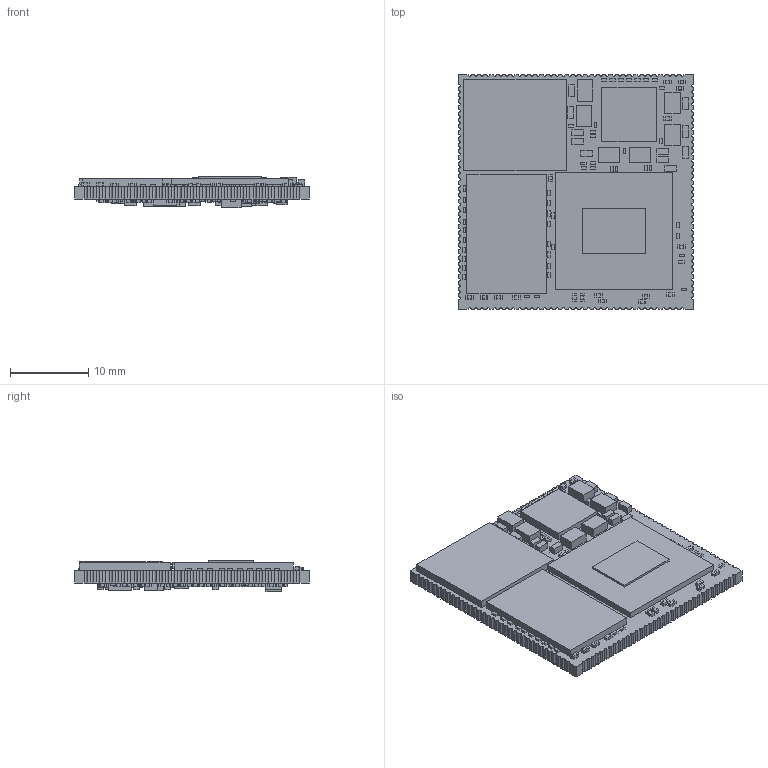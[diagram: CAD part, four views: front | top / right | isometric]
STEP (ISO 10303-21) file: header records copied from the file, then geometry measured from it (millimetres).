
FILE_DESCRIPTION (( 'STEP AP203' ), '1' );
FILE_NAME ('MCM_IMX8M_PLUS_asm.STEP', '2024-02-25T14:21:37', ( '' ), ( '' ), 'SwSTEP 2.0', 'SolidWorks 2015', '' );
FILE_SCHEMA (( 'CONFIG_CONTROL_DESIGN' ));
Length unit declared in the file: millimetre
Products named in the file (33): 151B103B0S_RC0201_151B103B0S; 161B10021S_RC0201_161B10021S; 131D31540S_SOT-563-6_131D31540S; RC0402FR-072K15L; 115A01125I-IC, CPU, Industrial, i.MX8M Plus_BGA-15x15; MCM_IMX8M_PLUS_asm; 151A47610S_RC0603_151A47610S; 151C10500S_RC0402_SAMSUNG; 161B10031S_RC0201_161B10031S; 139A10260S_LED-0603_139A10260S; 116B00360S_QFN3X3-16-1_116B00360S; 106N20190S_SC70-6_106N20190S; 151B10400S-Samsung_-_CL05A104KO5NNNC; 151B104B0S_RC0201_151B104B0S; 151B105B0S_RC0201_151B105B0S; 151B10500S-Samsung_-_CL05A104KO5NNNC; MCM_IMX8M_PLUS_board; 111M33201S_MO-276BA_111M33201S; 141B32301I_XTAL3_2x1_5_141B32301I; 111L53000S_BGA-200-08-10x15_111L53000S; 147AR4700S_Ind2_5x2x1_2_147AR4700S; 161B33R01S_RC0201_161B33R01S; 161C10021S-RC0402FR-0710K0; 161B00001S_RC0201_161B00001S; 131D10190S_SOT-563-6_131D10190S; 161B15001S_RC0201_161B15001S; 123M0R602S_QFN7x7-56-4_7x4_7_123M0R602S; 116A01041S_BGA-12-05-2_1x2_6_116A01041S; 151B10600S_RC0402_SAMSUNG; 151B22610S_RC0603_151B22610S; 141B24606S_OSC1612_141B24606S; 111S31000S_MO-229VCED-21; 161B56231S_RC0201_161B56231S
Assembly tree (316 placements, depth 2):
  MCM_IMX8M_PLUS_asm
    MCM_IMX8M_PLUS_board
    106N20190S_SC70-6_106N20190S
    111L53000S_BGA-200-08-10x15_111L53000S
    111M33201S_MO-276BA_111M33201S
    111S31000S_MO-229VCED-21
    115A01125I-IC, CPU, Industrial, i.MX8M Plus_BGA-15x15
    116A01041S_BGA-12-05-2_1x2_6_116A01041S
    116B00360S_QFN3X3-16-1_116B00360S
    123M0R602S_QFN7x7-56-4_7x4_7_123M0R602S
    131D10190S_SOT-563-6_131D10190S
    131D31540S_SOT-563-6_131D31540S
    139A10260S_LED-0603_139A10260S
    141B24606S_OSC1612_141B24606S
    141B32301I_XTAL3_2x1_5_141B32301I  x2
    147AR4700S_Ind2_5x2x1_2_147AR4700S  x6
    151A47610S_RC0603_151A47610S  x5
    151B103B0S_RC0201_151B103B0S  x2
    151B10400S-Samsung_-_CL05A104KO5NNNC  x29
    151B104B0S_RC0201_151B104B0S  x46
    151B10500S-Samsung_-_CL05A104KO5NNNC
    151B105B0S_RC0201_151B105B0S  x58
    151B10600S_RC0402_SAMSUNG  x21
    151B22610S_RC0603_151B22610S  x14
    RC0402FR-072K15L  x55
    151C10500S_RC0402_SAMSUNG  x2
    161B00001S_RC0201_161B00001S  x17
    161B10021S_RC0201_161B10021S  x27
    161B10031S_RC0201_161B10031S  x6
    161B15001S_RC0201_161B15001S  x2
    161B33R01S_RC0201_161B33R01S  x6
    161B56231S_RC0201_161B56231S
    161C10021S-RC0402FR-0710K0  x3
Bounding box: 30 x 30 x 4 mm (x, y, z)
Volume: 2108.8 mm3; surface area: 4572.8 mm2
Topology: 546 solids, 711 shells, 7592 faces, 16170 edges, 9884 vertices
Faces by surface type: plane 4311, cylinder 2381, sphere 896, bspline 4
Full cylindrical faces by diameter (mm): 0.7 x1
Entity records: 40104 total; most frequent: DIRECTION 5511, CARTESIAN_POINT 5099, ORIENTED_EDGE 4538, EDGE_CURVE 2273, AXIS2_PLACEMENT_3D 1960, VECTOR 1591, LINE 1591, VERTEX_POINT 1436
